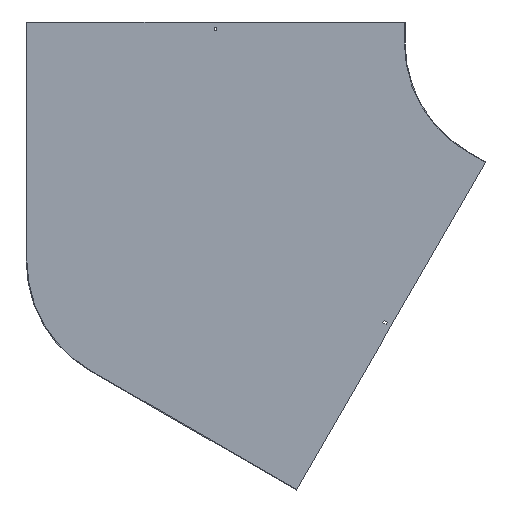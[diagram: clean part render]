
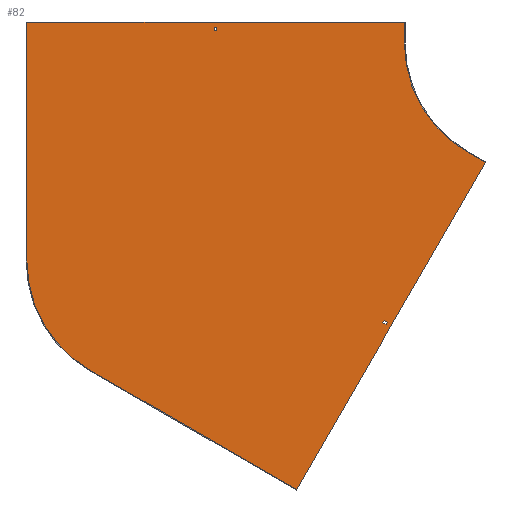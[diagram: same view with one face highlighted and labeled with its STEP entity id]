
A CAD part, front view. The second image highlights one B-rep face of the part: STEP entity #82.
In plain terms, the highlighted planar face has unit normal (0, -1, 0).
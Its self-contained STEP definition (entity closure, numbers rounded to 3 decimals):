
#8 = VERTEX_POINT ( 'NONE', #135 ) ;
#10 = CARTESIAN_POINT ( 'NONE',  ( -1200., -1.5, -519.615 ) ) ;
#11 = ORIENTED_EDGE ( 'NONE', *, *, #722, .F. ) ;
#37 = CARTESIAN_POINT ( 'NONE',  ( -1201.5, -1.5, 50. ) ) ;
#39 = VECTOR ( 'NONE', #353, 1000. ) ;
#49 = DIRECTION ( 'NONE',  ( 0.5, 0., 0.866 ) ) ;
#54 = DIRECTION ( 'NONE',  ( -0.866, 0., 0.5 ) ) ;
#67 = EDGE_LOOP ( 'NONE', ( #227, #803, #501, #846 ) ) ;
#68 = CARTESIAN_POINT ( 'NONE',  ( -150., -1.5, -259.808 ) ) ;
#74 = ORIENTED_EDGE ( 'NONE', *, *, #309, .F. ) ;
#78 = DIRECTION ( 'NONE',  ( -1., 0., 0. ) ) ;
#82 = ADVANCED_FACE ( 'NONE', ( #384, #327, #807 ), #274, .T. ) ;
#89 = CARTESIAN_POINT ( 'NONE',  ( -1200., -1.5, 50. ) ) ;
#96 = CIRCLE ( 'NONE', #289, 300. ) ;
#108 = CARTESIAN_POINT ( 'NONE',  ( -746.75, -1.5, 29. ) ) ;
#127 = EDGE_LOOP ( 'NONE', ( #404, #138, #436, #177 ) ) ;
#135 = CARTESIAN_POINT ( 'NONE',  ( -1200., -1.5, -519.615 ) ) ;
#136 = CARTESIAN_POINT ( 'NONE',  ( -753.25, -1.5, 0. ) ) ;
#138 = ORIENTED_EDGE ( 'NONE', *, *, #251, .F. ) ;
#146 = VECTOR ( 'NONE', #49, 1000. ) ;
#152 = EDGE_CURVE ( 'NONE', #247, #240, #266, .T. ) ;
#167 = VECTOR ( 'NONE', #562, 1000. ) ;
#168 = DIRECTION ( 'NONE',  ( 0., 1., 0. ) ) ;
#171 = EDGE_CURVE ( 'NONE', #8, #772, #468, .T. ) ;
#177 = ORIENTED_EDGE ( 'NONE', *, *, #783, .F. ) ;
#178 = LINE ( 'NONE', #37, #733 ) ;
#182 = DIRECTION ( 'NONE',  ( 1., 0., 0. ) ) ;
#191 = VECTOR ( 'NONE', #78, 1000. ) ;
#213 = LINE ( 'NONE', #685, #167 ) ;
#227 = ORIENTED_EDGE ( 'NONE', *, *, #152, .T. ) ;
#229 = DIRECTION ( 'NONE',  ( -0.5, 0., -0.866 ) ) ;
#235 = VECTOR ( 'NONE', #259, 1000. ) ;
#237 = CIRCLE ( 'NONE', #530, 300. ) ;
#239 = CARTESIAN_POINT ( 'NONE',  ( 32.909, -1.5, -19. ) ) ;
#240 = VERTEX_POINT ( 'NONE', #647 ) ;
#247 = VERTEX_POINT ( 'NONE', #306 ) ;
#251 = EDGE_CURVE ( 'NONE', #564, #398, #378, .T. ) ;
#255 = CARTESIAN_POINT ( 'NONE',  ( 0., -1.5, 38. ) ) ;
#258 = VERTEX_POINT ( 'NONE', #519 ) ;
#259 = DIRECTION ( 'NONE',  ( 1., 0., 0. ) ) ;
#261 = EDGE_CURVE ( 'NONE', #772, #450, #178, .T. ) ;
#263 = ORIENTED_EDGE ( 'NONE', *, *, #302, .F. ) ;
#266 = LINE ( 'NONE', #255, #235 ) ;
#274 = PLANE ( 'NONE',  #473 ) ;
#277 = DIRECTION ( 'NONE',  ( 0., -1., 0. ) ) ;
#280 = LINE ( 'NONE', #136, #697 ) ;
#289 = AXIS2_PLACEMENT_3D ( 'NONE', #305, #168, #630 ) ;
#302 = EDGE_CURVE ( 'NONE', #450, #418, #453, .T. ) ;
#305 = CARTESIAN_POINT ( 'NONE',  ( -900., -1.5, -519.615 ) ) ;
#306 = CARTESIAN_POINT ( 'NONE',  ( -753.25, -1.5, 38. ) ) ;
#309 = EDGE_CURVE ( 'NONE', #568, #839, #714, .T. ) ;
#324 = EDGE_LOOP ( 'NONE', ( #692, #735, #547, #11, #74, #662, #347, #263 ) ) ;
#327 = FACE_OUTER_BOUND ( 'NONE', #324, .T. ) ;
#335 = VERTEX_POINT ( 'NONE', #585 ) ;
#339 = VECTOR ( 'NONE', #634, 1000. ) ;
#342 = VERTEX_POINT ( 'NONE', #843 ) ;
#347 = ORIENTED_EDGE ( 'NONE', *, *, #763, .F. ) ;
#353 = DIRECTION ( 'NONE',  ( 0.866, 0., -0.5 ) ) ;
#368 = CARTESIAN_POINT ( 'NONE',  ( -376.625, -1.5, -652.334 ) ) ;
#378 = LINE ( 'NONE', #239, #146 ) ;
#384 = FACE_BOUND ( 'NONE', #127, .T. ) ;
#391 = VECTOR ( 'NONE', #54, 1000. ) ;
#393 = DIRECTION ( 'NONE',  ( 0.866, 0., -0.5 ) ) ;
#398 = VERTEX_POINT ( 'NONE', #635 ) ;
#404 = ORIENTED_EDGE ( 'NONE', *, *, #848, .F. ) ;
#418 = VERTEX_POINT ( 'NONE', #560 ) ;
#436 = ORIENTED_EDGE ( 'NONE', *, *, #444, .F. ) ;
#439 = LINE ( 'NONE', #368, #39 ) ;
#442 = CARTESIAN_POINT ( 'NONE',  ( -105.949, -1.5, -283.509 ) ) ;
#444 = EDGE_CURVE ( 'NONE', #335, #564, #439, .T. ) ;
#450 = VERTEX_POINT ( 'NONE', #620 ) ;
#453 = LINE ( 'NONE', #705, #621 ) ;
#467 = DIRECTION ( 'NONE',  ( 0., 0., 1. ) ) ;
#468 = LINE ( 'NONE', #10, #542 ) ;
#472 = CARTESIAN_POINT ( 'NONE',  ( -348.26, -1.5, -661.204 ) ) ;
#473 = AXIS2_PLACEMENT_3D ( 'NONE', #741, #545, #658 ) ;
#479 = CARTESIAN_POINT ( 'NONE',  ( -556.699, -1.5, -1064.23 ) ) ;
#495 = CARTESIAN_POINT ( 'NONE',  ( -150., -1.5, -259.808 ) ) ;
#499 = EDGE_CURVE ( 'NONE', #342, #247, #280, .T. ) ;
#501 = ORIENTED_EDGE ( 'NONE', *, *, #798, .T. ) ;
#508 = EDGE_CURVE ( 'NONE', #831, #568, #607, .T. ) ;
#519 = CARTESIAN_POINT ( 'NONE',  ( -1050., -1.5, -779.423 ) ) ;
#530 = AXIS2_PLACEMENT_3D ( 'NONE', #632, #277, #690 ) ;
#541 = CARTESIAN_POINT ( 'NONE',  ( -343.716, -1.5, -671.334 ) ) ;
#542 = VECTOR ( 'NONE', #806, 1000. ) ;
#545 = DIRECTION ( 'NONE',  ( 0., -1., 0. ) ) ;
#547 = ORIENTED_EDGE ( 'NONE', *, *, #689, .F. ) ;
#554 = LINE ( 'NONE', #678, #191 ) ;
#560 = CARTESIAN_POINT ( 'NONE',  ( -300., -1.5, 0. ) ) ;
#562 = DIRECTION ( 'NONE',  ( -0.866, 0., 0.5 ) ) ;
#564 = VERTEX_POINT ( 'NONE', #541 ) ;
#568 = VERTEX_POINT ( 'NONE', #816 ) ;
#582 = VERTEX_POINT ( 'NONE', #472 ) ;
#585 = CARTESIAN_POINT ( 'NONE',  ( -351.51, -1.5, -666.834 ) ) ;
#607 = LINE ( 'NONE', #68, #754 ) ;
#620 = CARTESIAN_POINT ( 'NONE',  ( -300., -1.5, 50. ) ) ;
#621 = VECTOR ( 'NONE', #859, 1000. ) ;
#622 = VECTOR ( 'NONE', #229, 1000. ) ;
#623 = CARTESIAN_POINT ( 'NONE',  ( 25.115, -1.5, -14.5 ) ) ;
#628 = VERTEX_POINT ( 'NONE', #108 ) ;
#630 = DIRECTION ( 'NONE',  ( 0., 0., -1. ) ) ;
#632 = CARTESIAN_POINT ( 'NONE',  ( 0., -1.5, 0. ) ) ;
#634 = DIRECTION ( 'NONE',  ( 0., 0., -1. ) ) ;
#635 = CARTESIAN_POINT ( 'NONE',  ( -340.466, -1.5, -665.704 ) ) ;
#641 = LINE ( 'NONE', #781, #339 ) ;
#647 = CARTESIAN_POINT ( 'NONE',  ( -746.75, -1.5, 38. ) ) ;
#648 = EDGE_CURVE ( 'NONE', #240, #628, #641, .T. ) ;
#654 = LINE ( 'NONE', #810, #391 ) ;
#658 = DIRECTION ( 'NONE',  ( 0., 0., -1. ) ) ;
#662 = ORIENTED_EDGE ( 'NONE', *, *, #508, .F. ) ;
#678 = CARTESIAN_POINT ( 'NONE',  ( 0., -1.5, 29. ) ) ;
#683 = VECTOR ( 'NONE', #782, 1000. ) ;
#685 = CARTESIAN_POINT ( 'NONE',  ( -373.375, -1.5, -646.704 ) ) ;
#689 = EDGE_CURVE ( 'NONE', #258, #8, #96, .T. ) ;
#690 = DIRECTION ( 'NONE',  ( 0., 0., -1. ) ) ;
#692 = ORIENTED_EDGE ( 'NONE', *, *, #261, .F. ) ;
#697 = VECTOR ( 'NONE', #467, 1000. ) ;
#705 = CARTESIAN_POINT ( 'NONE',  ( -300., -1.5, 50. ) ) ;
#714 = LINE ( 'NONE', #442, #683 ) ;
#722 = EDGE_CURVE ( 'NONE', #839, #258, #654, .T. ) ;
#733 = VECTOR ( 'NONE', #182, 1000. ) ;
#735 = ORIENTED_EDGE ( 'NONE', *, *, #171, .F. ) ;
#741 = CARTESIAN_POINT ( 'NONE',  ( 0., -1.5, 0. ) ) ;
#754 = VECTOR ( 'NONE', #393, 1000. ) ;
#763 = EDGE_CURVE ( 'NONE', #418, #831, #237, .T. ) ;
#772 = VERTEX_POINT ( 'NONE', #89 ) ;
#781 = CARTESIAN_POINT ( 'NONE',  ( -746.75, -1.5, 0. ) ) ;
#782 = DIRECTION ( 'NONE',  ( -0.5, 0., -0.866 ) ) ;
#783 = EDGE_CURVE ( 'NONE', #582, #335, #833, .T. ) ;
#798 = EDGE_CURVE ( 'NONE', #628, #342, #554, .T. ) ;
#803 = ORIENTED_EDGE ( 'NONE', *, *, #648, .T. ) ;
#806 = DIRECTION ( 'NONE',  ( 0., 0., 1. ) ) ;
#807 = FACE_BOUND ( 'NONE', #67, .T. ) ;
#810 = CARTESIAN_POINT ( 'NONE',  ( -556.699, -1.5, -1064.23 ) ) ;
#816 = CARTESIAN_POINT ( 'NONE',  ( -106.699, -1.5, -284.808 ) ) ;
#831 = VERTEX_POINT ( 'NONE', #495 ) ;
#833 = LINE ( 'NONE', #623, #622 ) ;
#839 = VERTEX_POINT ( 'NONE', #479 ) ;
#843 = CARTESIAN_POINT ( 'NONE',  ( -753.25, -1.5, 29. ) ) ;
#846 = ORIENTED_EDGE ( 'NONE', *, *, #499, .T. ) ;
#848 = EDGE_CURVE ( 'NONE', #398, #582, #213, .T. ) ;
#859 = DIRECTION ( 'NONE',  ( 0., 0., -1. ) ) ;
